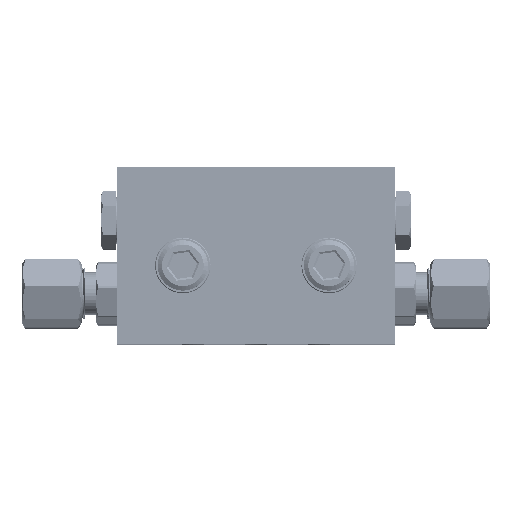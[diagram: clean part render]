
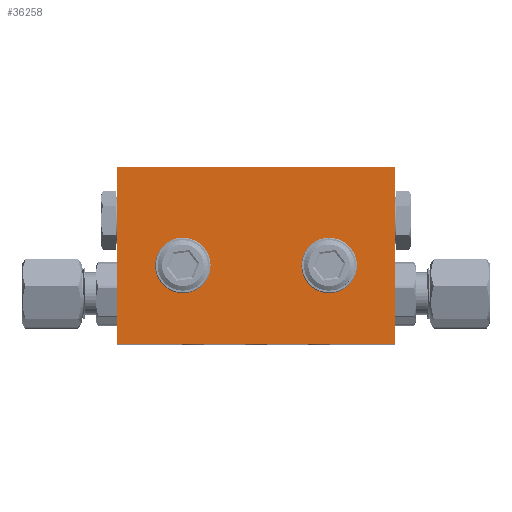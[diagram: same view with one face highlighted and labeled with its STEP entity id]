
A CAD part, top view. The second image highlights one B-rep face of the part: STEP entity #36258.
In plain terms, the highlighted planar face has unit normal (0, 0, 1) as drawn and (0, 0, -1) by its records, which use the part's own axes.
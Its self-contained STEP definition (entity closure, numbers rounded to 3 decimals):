
#1001 = EDGE_CURVE ( 'NONE', #18913, #39812, #20863, .T. ) ;
#1043 = EDGE_CURVE ( 'NONE', #30198, #2305, #24563, .T. ) ;
#1207 = CARTESIAN_POINT ( 'NONE',  ( -27.5, 0., -4.85 ) ) ;
#1434 = CARTESIAN_POINT ( 'NONE',  ( -27.5, 0., -4.85 ) ) ;
#2112 = EDGE_CURVE ( 'NONE', #2305, #18913, #15600, .T. ) ;
#2305 = VERTEX_POINT ( 'NONE', #37366 ) ;
#2651 = VERTEX_POINT ( 'NONE', #9415 ) ;
#4059 = EDGE_LOOP ( 'NONE', ( #21076 ) ) ;
#4280 = DIRECTION ( 'NONE',  ( -1., 0., 0. ) ) ;
#4738 = CARTESIAN_POINT ( 'NONE',  ( 27.5, 0., -4.85 ) ) ;
#5130 = PLANE ( 'NONE',  #7999 ) ;
#5546 = EDGE_LOOP ( 'NONE', ( #22157, #8320, #27658, #30763 ) ) ;
#6960 = CARTESIAN_POINT ( 'NONE',  ( -11.4, -15.5, -4.85 ) ) ;
#7383 = CIRCLE ( 'NONE', #31800, 3.1 ) ;
#7860 = CARTESIAN_POINT ( 'NONE',  ( 14.5, -15.5, -4.85 ) ) ;
#7999 = AXIS2_PLACEMENT_3D ( 'NONE', #8207, #24987, #42010 ) ;
#8207 = CARTESIAN_POINT ( 'NONE',  ( 0., 0., -4.85 ) ) ;
#8320 = ORIENTED_EDGE ( 'NONE', *, *, #14088, .F. ) ;
#8984 = DIRECTION ( 'NONE',  ( 0., 0., -1. ) ) ;
#9415 = CARTESIAN_POINT ( 'NONE',  ( 11.4, -15.5, -4.85 ) ) ;
#10614 = CARTESIAN_POINT ( 'NONE',  ( -27.5, -35., -4.85 ) ) ;
#13345 = ORIENTED_EDGE ( 'NONE', *, *, #30131, .F. ) ;
#13553 = VERTEX_POINT ( 'NONE', #6960 ) ;
#14088 = EDGE_CURVE ( 'NONE', #39812, #30198, #28679, .T. ) ;
#15103 = DIRECTION ( 'NONE',  ( 1., 0., 0. ) ) ;
#15600 = LINE ( 'NONE', #39573, #22251 ) ;
#15919 = VECTOR ( 'NONE', #4280, 1000. ) ;
#18703 = FACE_BOUND ( 'NONE', #4059, .T. ) ;
#18910 = FACE_OUTER_BOUND ( 'NONE', #5546, .T. ) ;
#18913 = VERTEX_POINT ( 'NONE', #4738 ) ;
#20863 = LINE ( 'NONE', #34196, #15919 ) ;
#21076 = ORIENTED_EDGE ( 'NONE', *, *, #34290, .F. ) ;
#21157 = DIRECTION ( 'NONE',  ( -1., 0., 0. ) ) ;
#22157 = ORIENTED_EDGE ( 'NONE', *, *, #1043, .F. ) ;
#22251 = VECTOR ( 'NONE', #32619, 1000. ) ;
#22488 = AXIS2_PLACEMENT_3D ( 'NONE', #7860, #40586, #21157 ) ;
#24563 = LINE ( 'NONE', #31141, #36820 ) ;
#24987 = DIRECTION ( 'NONE',  ( 0., 0., 1. ) ) ;
#27658 = ORIENTED_EDGE ( 'NONE', *, *, #1001, .F. ) ;
#28679 = LINE ( 'NONE', #1207, #38777 ) ;
#30131 = EDGE_CURVE ( 'NONE', #2651, #2651, #35707, .T. ) ;
#30198 = VERTEX_POINT ( 'NONE', #10614 ) ;
#30763 = ORIENTED_EDGE ( 'NONE', *, *, #2112, .F. ) ;
#31141 = CARTESIAN_POINT ( 'NONE',  ( 0., -35., -4.85 ) ) ;
#31800 = AXIS2_PLACEMENT_3D ( 'NONE', #35355, #8984, #15103 ) ;
#32619 = DIRECTION ( 'NONE',  ( 0., 1., 0. ) ) ;
#34196 = CARTESIAN_POINT ( 'NONE',  ( 0., 0., -4.85 ) ) ;
#34290 = EDGE_CURVE ( 'NONE', #13553, #13553, #7383, .T. ) ;
#35355 = CARTESIAN_POINT ( 'NONE',  ( -14.5, -15.5, -4.85 ) ) ;
#35707 = CIRCLE ( 'NONE', #22488, 3.1 ) ;
#36258 = ADVANCED_FACE ( 'NONE', ( #18703, #41570, #18910 ), #5130, .F. ) ;
#36820 = VECTOR ( 'NONE', #38769, 1000. ) ;
#37366 = CARTESIAN_POINT ( 'NONE',  ( 27.5, -35., -4.85 ) ) ;
#38769 = DIRECTION ( 'NONE',  ( 1., 0., 0. ) ) ;
#38777 = VECTOR ( 'NONE', #42009, 1000. ) ;
#39573 = CARTESIAN_POINT ( 'NONE',  ( 27.5, 0., -4.85 ) ) ;
#39664 = EDGE_LOOP ( 'NONE', ( #13345 ) ) ;
#39812 = VERTEX_POINT ( 'NONE', #1434 ) ;
#40586 = DIRECTION ( 'NONE',  ( 0., 0., -1. ) ) ;
#41570 = FACE_BOUND ( 'NONE', #39664, .T. ) ;
#42009 = DIRECTION ( 'NONE',  ( 0., -1., 0. ) ) ;
#42010 = DIRECTION ( 'NONE',  ( 1., 0., 0. ) ) ;
